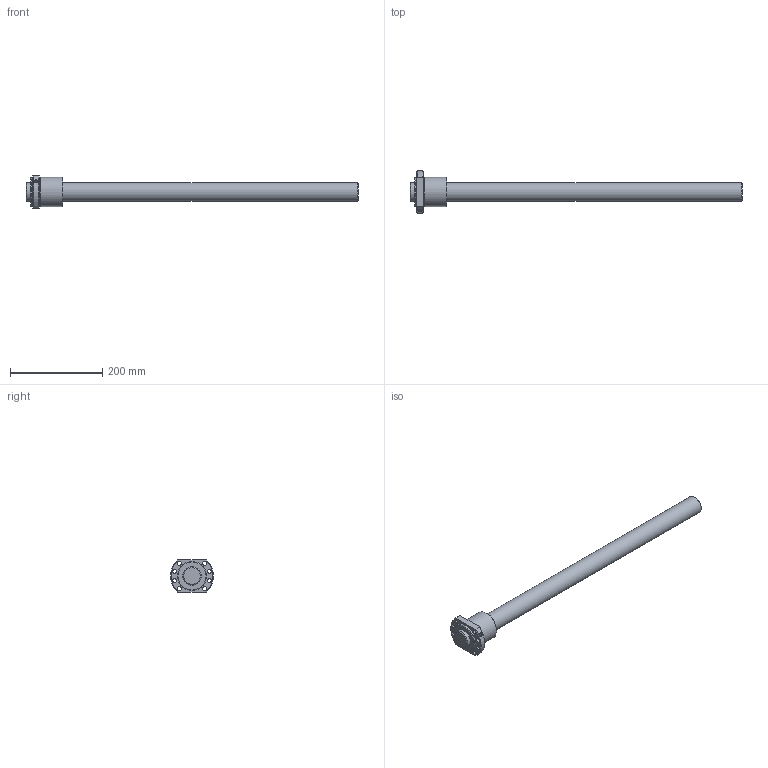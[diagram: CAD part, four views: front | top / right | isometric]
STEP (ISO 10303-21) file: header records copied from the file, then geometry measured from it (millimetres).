
FILE_DESCRIPTION(/* description */ ('STEP AP214'),/* implementation_level */ '2;1');
FILE_NAME(/* name */ 'EBB4005-6RR+720LC7(63000)-ebb3_rev',/* time_stamp */ '2023-08-03T13:10:22+02:00',/* author */ ('License CC BY-ND 4.0'),/* organization */ ('CADENAS'),/* preprocessor_version */ 'ST-DEVELOPER v19.3',/* originating_system */ 'PARTsolutions',/* authorisation */ ' ');
FILE_SCHEMA (('AUTOMOTIVE_DESIGN {1 0 10303 214 3 1 1}'));
Length unit declared in the file: millimetre
Products named in the file (3): EBB4005-6RR+720LC7(63000)-ebb3_rev; EBB 4005-6RR Nut3; EBB 4005-66300 Shaft3
Assembly tree (2 placements, depth 2):
  EBB4005-6RR+720LC7(63000)-ebb3_rev
    EBB 4005-6RR Nut3
    EBB 4005-66300 Shaft3
Bounding box: 720 x 93 x 70 mm (x, y, z)
Volume: 1062750.5 mm3; surface area: 128412 mm2
Topology: 2 solids, 2 shells, 34 faces, 77 edges, 50 vertices
Faces by surface type: cylinder 16, cone 9, plane 9
Full cylindrical faces by diameter (mm): 6.647 x1, 9 x8, 40 x2, 59.22 x1, 63 x2
Entity records: 1003 total; most frequent: CARTESIAN_POINT 187, DIRECTION 160, ORIENTED_EDGE 114, EDGE_LOOP 76, FACE_BOUND 76, AXIS2_PLACEMENT_3D 76, EDGE_CURVE 57, VERTEX_POINT 49
